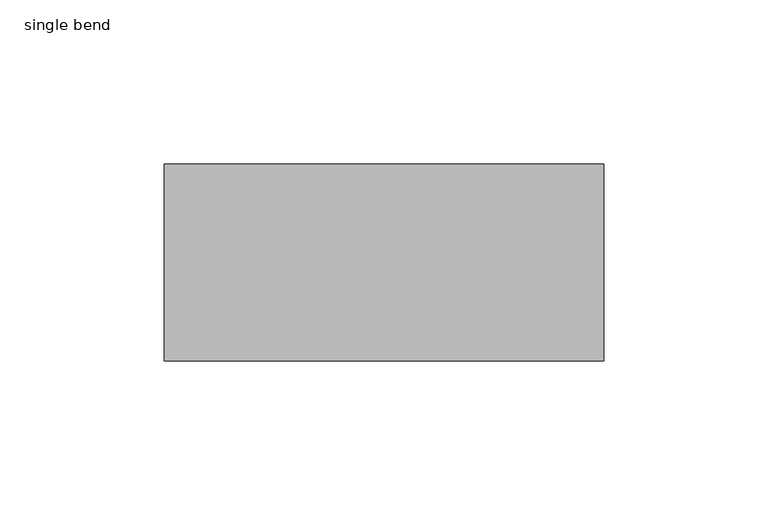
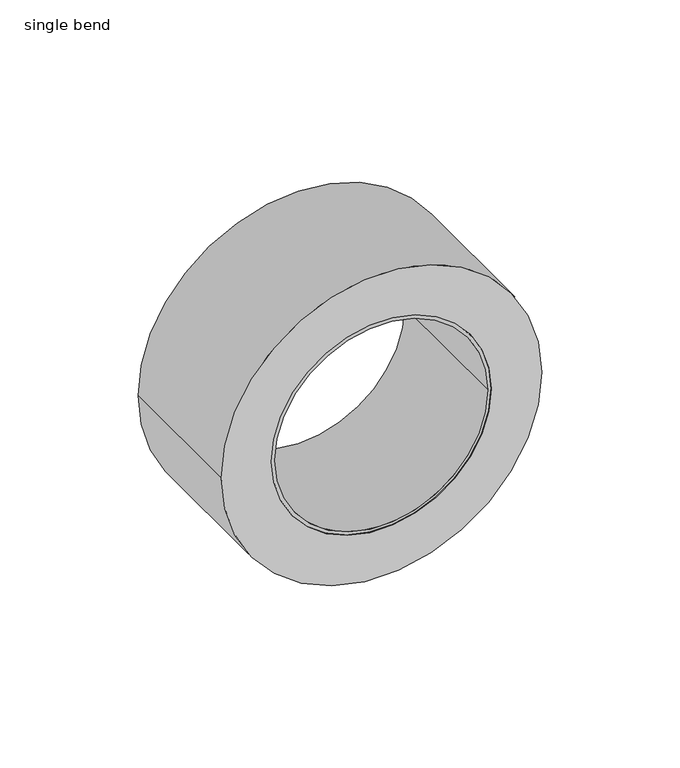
"""IFC4 building model written with IfcOpenShell, lengths in millimetres: pipe fitting geometry, PIF_ST_UN_GM-X compound pipe multi-bend_ACO : single bend."""

from ifc_helpers import new_model, si_unit, point, frame, origin, origin_2d, place, context, project, spatial, polyline, circle_curve, trimmed, segment, composite_curve, outline, extrude, source, transform, mapped, element, save
from ifc_brep_helpers import plane_surface, cylinder_surface, revolved_surface, advanced_brep


def single_bend_0c2247d4(model_context):
    return source(origin(), model_context, "Body", "SolidModel", [
        extrude(outline(composite_curve([segment(trimmed(circle_curve(origin_2d(), 67.0), [point((0.0, 67.0))], [point((0.0, -67.0))], False, "CARTESIAN"), True, "CONTINUOUS"), segment(trimmed(circle_curve(origin_2d(), 67.0), [point((0.0, -67.0))], [point((0.0, 67.0))], False, "CARTESIAN"), True, "CONTINUOUS")], self_intersect=False), holes=[composite_curve([segment(trimmed(circle_curve(origin_2d(), 46.0), [point((0.0, 46.0))], [point((0.0, -46.0))], True, "CARTESIAN"), True, "CONTINUOUS"), segment(trimmed(circle_curve(origin_2d(), 46.0), [point((0.0, -46.0))], [point((0.0, 46.0))], True, "CARTESIAN"), True, "CONTINUOUS")], self_intersect=False)]), frame((0.0, 135.6, 0.0), z_axis=(0.0, 1.0, 0.0), x_axis=(0.0, 0.0, 1.0)), (0.0, 0.0, 1.0), 60.0),
        advanced_brep(
        [(46.0, 195.6, 0.0), (-46.0, 195.6, 0.0), (-44.5, 195.6, 0.0), (44.5, 195.6, 0.0), (46.0, 135.6, 0.0), (-46.0, 135.6, 0.0), (44.5, 135.6, 0.0), (-44.5, 135.6, 0.0), (46.0, 166.6, 0.0), (-46.0, 166.6, 0.0), (-46.0, 143.8, 0.0), (46.0, 143.8, 0.0), (51.3, 166.6, 0.0), (-51.3, 166.6, 0.0), (51.3, 143.8, 0.0), (-51.3, 143.8, 0.0)],
        [
            (0, 1, circle_curve(frame((0.0, 195.6, 0.0), z_axis=(0.0, 1.0, 0.0), x_axis=(-1.0, 0.0, 0.0)), 46.0)),
            (1, 0, circle_curve(frame((0.0, 195.6, 0.0), z_axis=(0.0, 1.0, 0.0), x_axis=(-1.0, 0.0, 0.0)), 46.0)),
            (2, 3, circle_curve(frame((0.0, 195.6, 0.0), z_axis=(0.0, -1.0, 0.0), x_axis=(-1.0, 0.0, 0.0)), 44.5)),
            (3, 2, circle_curve(frame((0.0, 195.6, 0.0), z_axis=(0.0, -1.0, 0.0), x_axis=(-1.0, 0.0, 0.0)), 44.5)),
            (4, 5, circle_curve(frame((0.0, 135.6, 0.0), z_axis=(0.0, -1.0, 0.0), x_axis=(-1.0, 0.0, 0.0)), 46.0)),
            (5, 4, circle_curve(frame((0.0, 135.6, 0.0), z_axis=(0.0, -1.0, 0.0), x_axis=(-1.0, 0.0, 0.0)), 46.0)),
            (6, 7, circle_curve(frame((0.0, 135.6, 0.0), z_axis=(0.0, 1.0, 0.0), x_axis=(-1.0, 0.0, 0.0)), 44.5)),
            (7, 6, circle_curve(frame((0.0, 135.6, 0.0), z_axis=(0.0, 1.0, 0.0), x_axis=(-1.0, 0.0, 0.0)), 44.5)),
            (0, 8),
            (8, 9, circle_curve(frame((0.0, 166.6, 0.0), z_axis=(0.0, 1.0, 0.0), x_axis=(-1.0, 0.0, 0.0)), 46.0)),
            (9, 1),
            (5, 10),
            (10, 11, circle_curve(frame((0.0, 143.8, 0.0), z_axis=(0.0, -1.0, 0.0), x_axis=(-1.0, 0.0, 0.0)), 46.0)),
            (11, 4),
            (9, 8, circle_curve(frame((0.0, 166.6, 0.0), z_axis=(0.0, 1.0, 0.0), x_axis=(-1.0, 0.0, 0.0)), 46.0)),
            (11, 10, circle_curve(frame((0.0, 143.8, 0.0), z_axis=(0.0, -1.0, 0.0), x_axis=(-1.0, 0.0, 0.0)), 46.0)),
            (2, 7),
            (6, 3),
            (12, 13, circle_curve(frame((0.0, 166.6, 0.0), z_axis=(0.0, 1.0, 0.0), x_axis=(-1.0, 0.0, 0.0)), 51.3)),
            (13, 12, circle_curve(frame((0.0, 166.6, 0.0), z_axis=(0.0, 1.0, 0.0), x_axis=(-1.0, 0.0, 0.0)), 51.3)),
            (14, 15, circle_curve(frame((0.0, 143.8, 0.0), z_axis=(0.0, -1.0, 0.0), x_axis=(-1.0, 0.0, 0.0)), 51.3)),
            (15, 14, circle_curve(frame((0.0, 143.8, 0.0), z_axis=(0.0, -1.0, 0.0), x_axis=(-1.0, 0.0, 0.0)), 51.3)),
            (12, 14),
            (15, 13),
        ],
        [
            plane_surface(frame((-46.0, 195.6, 0.0), z_axis=(0.0, 1.0, 0.0), x_axis=(0.0, 0.0, 1.0))),
            plane_surface(frame((-46.0, 135.6, 0.0), z_axis=(0.0, -1.0, 0.0), x_axis=(0.0, 0.0, -1.0))),
            cylinder_surface(frame((0.0, 135.6, 0.0), z_axis=(0.0, 1.0, 0.0), x_axis=(-1.0, 0.0, 0.0)), 46.0),
            revolved_surface(polyline([(-44.5, 195.6, 0.0), (-44.5, 135.6, 0.0)]), (0.0, 135.6, 0.0), (0.0, 1.0, 0.0)),
            plane_surface(frame((-51.3, 166.6, 0.0), z_axis=(0.0, 1.0, 0.0), x_axis=(0.0, 0.0, 1.0))),
            plane_surface(frame((-51.3, 143.8, 0.0), z_axis=(0.0, -1.0, 0.0), x_axis=(0.0, 0.0, -1.0))),
            cylinder_surface(frame((0.0, 143.8, 0.0), z_axis=(0.0, 1.0, 0.0), x_axis=(-1.0, 0.0, 0.0)), 51.3),
        ],
        [
            (0, [[1, 2], [3, 4]]),
            (1, [[5, 6], [7, 8]]),
            (2, [[-1, 9, 10, 11]]),
            (2, [[-6, 12, 13, 14]]),
            (2, [[-2, -11, 15, -9]]),
            (2, [[-5, -14, 16, -12]]),
            (3, [[17, -7, 18, -3]]),
            (3, [[-17, -4, -18, -8]]),
            (4, [[19, 20], [-10, -15]]),
            (5, [[21, 22], [-13, -16]]),
            (6, [[-19, 23, -22, 24]]),
            (6, [[-20, -24, -21, -23]]),
        ],
    ),
    ])


if __name__ == "__main__":
    model = new_model("IFC4")
    model_context = context("Model", 3, world=origin())
    ifc_project = project(units=[si_unit("LENGTHUNIT", "METRE", prefix="MILLI")], contexts=[model_context])
    site = spatial("IfcSite", under=ifc_project)
    building = spatial("IfcBuilding", under=site)
    placement = place(None, origin())
    single_bend_shape = single_bend_0c2247d4(model_context)
    element("IfcPipeFitting", 1, ObjectType="PIF_ST_UN_GM-X compound pipe multi-bend_ACO : single bend", at=placement, inside=building, context=model_context, shape_type="MappedRepresentation", body=[
        mapped(single_bend_shape, transform((0.0, 0.0, 0.0), x_axis=(1.0, 0.0, 0.0), y_axis=(0.0, 1.0, 0.0), z_axis=(0.0, 0.0, 1.0))),
    ])
    save(model, "model.ifc")
